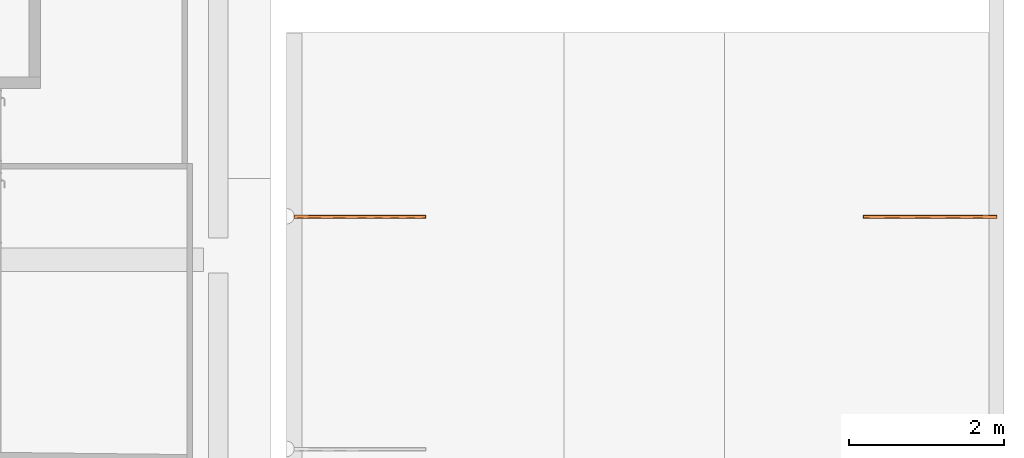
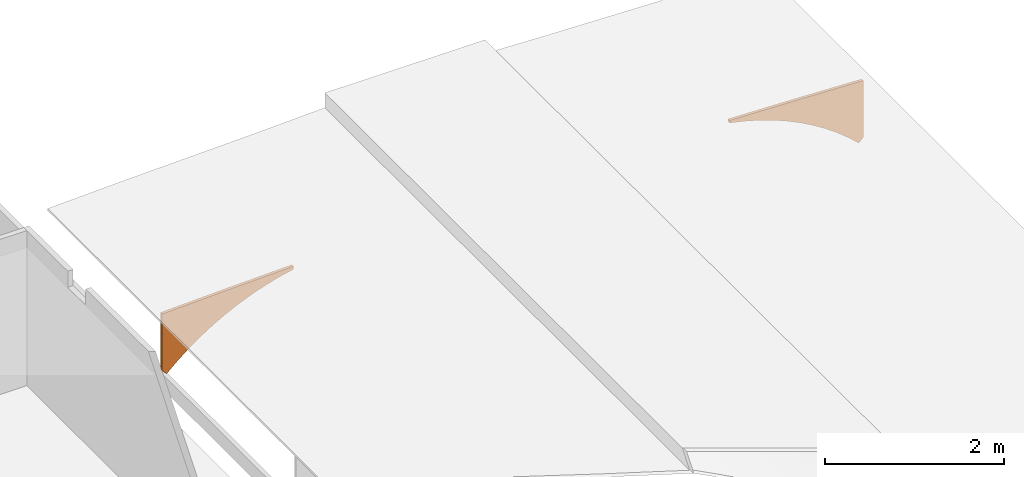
# One storey, part 32 of 32: 1 proxy.
"""IFC4 building model written with IfcOpenShell, lengths in metres."""

from ifc_helpers import new_model, entity, si_unit, converted_unit, derived_unit, direction, frame, origin, place, context, subcontext, project, spatial, polygons, source, transform, mapped, material, type_object, type_shapes, element, save


model = new_model("IFC4")

# Units and contexts
model_context = context("Model", 3, precision=1e-05, world=origin(), true_north=direction((6.12303176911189e-17, 1.0)))
body_context = subcontext(model_context, "Body", "Model", "MODEL_VIEW")
ifc_project = project(units=[si_unit("LENGTHUNIT", "METRE"), si_unit("AREAUNIT", "SQUARE_METRE"), si_unit("VOLUMEUNIT", "CUBIC_METRE"), converted_unit("PLANEANGLEUNIT", "DEGREE", entity("IfcRatioMeasure", 0.0174532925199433), si_unit("PLANEANGLEUNIT", "RADIAN"), dimensions=[0, 0, 0, 0, 0, 0, 0]), si_unit("MASSUNIT", "GRAM", prefix="KILO"), derived_unit("MASSDENSITYUNIT", [(si_unit("MASSUNIT", "GRAM", prefix="KILO"), 1), (si_unit("LENGTHUNIT", "METRE"), -3)]), derived_unit("MOMENTOFINERTIAUNIT", [(si_unit("LENGTHUNIT", "METRE"), 4)]), si_unit("TIMEUNIT", "SECOND"), si_unit("FREQUENCYUNIT", "HERTZ"), si_unit("THERMODYNAMICTEMPERATUREUNIT", "DEGREE_CELSIUS"), derived_unit("THERMALTRANSMITTANCEUNIT", [(si_unit("MASSUNIT", "GRAM", prefix="KILO"), 1), (si_unit("THERMODYNAMICTEMPERATUREUNIT", "KELVIN"), -1), (si_unit("TIMEUNIT", "SECOND"), -3)]), derived_unit("VOLUMETRICFLOWRATEUNIT", [(si_unit("LENGTHUNIT", "METRE"), 3), (si_unit("TIMEUNIT", "SECOND"), -1)]), si_unit("ELECTRICCURRENTUNIT", "AMPERE"), si_unit("ELECTRICVOLTAGEUNIT", "VOLT"), si_unit("POWERUNIT", "WATT"), si_unit("FORCEUNIT", "NEWTON", prefix="KILO"), si_unit("ILLUMINANCEUNIT", "LUX"), si_unit("LUMINOUSFLUXUNIT", "LUMEN"), si_unit("LUMINOUSINTENSITYUNIT", "CANDELA"), derived_unit("USERDEFINED", [(si_unit("MASSUNIT", "GRAM", prefix="KILO"), -1), (si_unit("LENGTHUNIT", "METRE"), -2), (si_unit("TIMEUNIT", "SECOND"), 3), (si_unit("LUMINOUSFLUXUNIT", "LUMEN"), 1)]), derived_unit("LINEARVELOCITYUNIT", [(si_unit("LENGTHUNIT", "METRE"), 1), (si_unit("TIMEUNIT", "SECOND"), -1)]), si_unit("PRESSUREUNIT", "PASCAL"), derived_unit("USERDEFINED", [(si_unit("LENGTHUNIT", "METRE"), -2), (si_unit("MASSUNIT", "GRAM", prefix="KILO"), 1), (si_unit("TIMEUNIT", "SECOND"), -2)]), derived_unit("LINEARFORCEUNIT", [(si_unit("MASSUNIT", "GRAM", prefix="KILO"), 1), (si_unit("LENGTHUNIT", "METRE"), 1), (si_unit("TIMEUNIT", "SECOND"), -2), (si_unit("LENGTHUNIT", "METRE"), -1)]), derived_unit("PLANARFORCEUNIT", [(si_unit("MASSUNIT", "GRAM", prefix="KILO"), 1), (si_unit("LENGTHUNIT", "METRE"), 1), (si_unit("TIMEUNIT", "SECOND"), -2), (si_unit("LENGTHUNIT", "METRE"), -2)])], contexts=[model_context])

# Site, building, storey
site_placement = place(None, origin())
site = spatial("IfcSite", under=ifc_project, at=site_placement, Name="Default", CompositionType="ELEMENT")
building_placement = place(site_placement, origin())
building = spatial("IfcBuilding", under=site, at=building_placement, Name="HOTEL CONSULAIRE BOULOGNE SUR MER", CompositionType="ELEMENT")
storey_placement = place(building_placement, frame((0.0, 0.0, -2.70343668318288)))
storey = spatial("IfcBuildingStorey", under=building, at=storey_placement, Name="SS1", CompositionType="ELEMENT", Elevation=-2.70343668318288)

# Proxy
ifc_material = material(Name="peinture rouge")
building_element_proxy_type = type_object("IfcBuildingElementProxyType", Name="Décoration plafond3:Décoration plafond", PredefinedType="NOTDEFINED", material=ifc_material)
shared_shape = source(origin(), body_context, "Body", "Tessellation", [
    polygons([(0.0606170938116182, 0.00159527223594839, 0.0015952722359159), (0.199839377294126, 0.00159527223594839, 0.127213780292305), (0.345941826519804, 0.00159527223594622, 0.244759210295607), (0.498456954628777, 0.00159527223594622, 0.353855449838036), (0.656896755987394, 0.00159527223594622, 0.454153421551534), (0.820754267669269, 0.00159527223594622, 0.54533220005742), (0.989505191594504, 0.00159527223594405, 0.627100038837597), (1.1626095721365, 0.00159527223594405, 0.69919530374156), (1.3395135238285, 0.00159527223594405, 0.761387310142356), (1.51965100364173, 0.00159527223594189, 0.813477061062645), (1.70244562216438, 0.00159527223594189, 0.855297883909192), (1.70244562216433, 0.00159527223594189, 0.894584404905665), (0.851904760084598, 0.00159527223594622, 0.868818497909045), (0.00159527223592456, 0.00159527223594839, 0.836315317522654), (0.00159527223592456, 0.00159527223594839, 0.0606170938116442), (1.70244562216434, 0.0401348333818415, 0.894584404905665), (0.853216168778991, 0.0401348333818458, 0.868863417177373), (0.00421731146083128, 0.040134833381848, 0.836425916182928), (0.00481577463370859, 0.0338425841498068, 0.836451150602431), (0.00501553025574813, 0.0275250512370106, 0.836459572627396), (0.0041578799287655, 0.0144562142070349, 0.836423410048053), (0.3589450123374, 0.00159527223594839, 0.84997505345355), (0.428716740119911, 0.040134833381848, 0.85264466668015), (0.182892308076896, 0.040134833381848, 0.843252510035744), (0.180270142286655, 0.00159527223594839, 0.843145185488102), (1.27717519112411, 0.00159527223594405, 0.881701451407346), (1.27783089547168, 0.0401348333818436, 0.881723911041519), (1.06552353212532, 0.0401348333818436, 0.875293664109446), (0.605424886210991, 0.00159527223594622, 0.859396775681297), (0.640966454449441, 0.0401348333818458, 0.860754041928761), (1.52372221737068, 0.0401348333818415, 0.889171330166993), (1.48981040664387, 0.00159527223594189, 0.888142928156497), (1.06453997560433, 0.00159527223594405, 0.875259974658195), (0.0606170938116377, 0.040134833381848, 0.0015952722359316), (0.00415677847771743, 0.0144478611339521, 0.0580555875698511), (0.00501553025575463, 0.0275250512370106, 0.0571968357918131), (0.00481577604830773, 0.033842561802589, 0.0573965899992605), (0.00421731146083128, 0.040134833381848, 0.0579950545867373), (0.199839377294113, 0.040134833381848, 0.127213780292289), (0.345941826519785, 0.0401348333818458, 0.244759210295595), (0.498456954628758, 0.0401348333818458, 0.353855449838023), (0.656896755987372, 0.0401348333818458, 0.454153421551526), (0.820754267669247, 0.0401348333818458, 0.545332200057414), (0.989505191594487, 0.0401348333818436, 0.627100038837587), (1.16260957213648, 0.0401348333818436, 0.699195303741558), (1.33951352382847, 0.0401348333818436, 0.761387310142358), (1.5196510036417, 0.0401348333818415, 0.813477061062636), (1.70244562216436, 0.0401348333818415, 0.855297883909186), (0.00421731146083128, 0.040134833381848, 0.487255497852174), (0.00501553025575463, 0.0275250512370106, 0.446828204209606), (0.00501553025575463, 0.0275250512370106, 0.231782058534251), (0.00501553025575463, 0.0275250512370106, 0.641643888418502), (0.00421731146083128, 0.040134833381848, 0.272625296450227), (0.00421731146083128, 0.040134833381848, 0.379940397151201), (0.00421731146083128, 0.0401348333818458, 0.661840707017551), (0.00501553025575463, 0.0275250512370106, 0.339305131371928), (0.00501553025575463, 0.0275250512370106, 0.144489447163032), (0.00421731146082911, 0.040134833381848, 0.165310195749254), (0.00421731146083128, 0.040134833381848, 0.21896774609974), (0.00421731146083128, 0.040134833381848, 0.749133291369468), (0.00501553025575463, 0.0275250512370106, 0.73905173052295), (0.00501553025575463, 0.0275250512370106, 0.690347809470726), (0.00421731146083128, 0.040134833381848, 0.792779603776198), (0.00421731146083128, 0.040134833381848, 0.101641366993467), (0.00501553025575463, 0.0275250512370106, 0.792813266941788), (0.00481584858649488, 0.0338414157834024, 0.770956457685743), (0.00421731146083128, 0.040134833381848, 0.705487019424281), (0.00501553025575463, 0.0275250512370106, 0.100843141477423), (0.00481746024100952, 0.0338158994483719, 0.122666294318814), (0.00479391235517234, 0.0341789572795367, 0.683663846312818), (0.00501553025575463, 0.0275250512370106, 0.188135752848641), (0.00483479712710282, 0.0335345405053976, 0.209958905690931), (0.00501553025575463, 0.0275250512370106, 0.285543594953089), (0.00421731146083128, 0.040134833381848, 0.326282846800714), (0.00421731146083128, 0.040134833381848, 0.574548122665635), (0.00501553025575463, 0.0275250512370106, 0.544236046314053), (0.0047792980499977, 0.0343945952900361, 0.634207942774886), (0.00501553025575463, 0.0275250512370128, 0.592939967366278), (0.00484234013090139, 0.0334079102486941, 0.568588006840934), (0.00481760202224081, 0.0338136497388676, 0.515420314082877), (0.00478881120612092, 0.034255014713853, 0.353111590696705), (0.00501553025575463, 0.0275250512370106, 0.393066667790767), (0.00421731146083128, 0.040134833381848, 0.433597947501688), (0.00480682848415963, 0.033982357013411, 0.303712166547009), (0.00485900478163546, 0.0331179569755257, 0.256991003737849), (0.00479682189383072, 0.0341351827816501, 0.400803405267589), (0.00481199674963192, 0.0339019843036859, 0.466099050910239), (0.00501553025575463, 0.0275250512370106, 0.49553212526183), (0.00475205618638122, 0.03477938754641, 0.727461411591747), (0.0048708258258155, 0.0329027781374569, 0.166186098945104), (0.00421731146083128, 0.0401348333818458, 0.618194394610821), (0.00421731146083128, 0.040134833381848, 0.530901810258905), (0.00159527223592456, 0.00159527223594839, 0.487144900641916), (0.00501553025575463, 0.0275250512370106, 0.661874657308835), (0.00159527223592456, 0.00159527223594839, 0.27388115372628), (0.00501553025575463, 0.0275250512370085, 0.252012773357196), (0.00501553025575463, 0.0275250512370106, 0.349420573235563), (0.00159527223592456, 0.00159527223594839, 0.661730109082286), (0.00159527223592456, 0.00159527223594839, 0.14790969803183), (0.00159527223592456, 0.00159527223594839, 0.380513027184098), (0.00501553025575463, 0.0275250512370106, 0.749167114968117), (0.00415615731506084, 0.0144431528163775, 0.705520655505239), (0.00501553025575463, 0.0275250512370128, 0.554351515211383), (0.00423619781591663, 0.0150647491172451, 0.300716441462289), (0.00403978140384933, 0.0135895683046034, 0.597327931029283), (0.0040201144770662, 0.013450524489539, 0.433828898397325), (0.00159527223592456, 0.00159527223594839, 0.749022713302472), (0.00159527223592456, 0.00159527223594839, 0.574437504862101), (0.00415857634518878, 0.0144614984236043, 0.151540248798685)], [[[5, 6, 7, 8, 9, 10, 11, 12, 32, 26, 33, 13, 29, 22, 25, 14, 107, 98, 108, 93, 100, 95, 99, 15, 1, 2, 3, 4]], [[27, 28, 26]], [[23, 22, 29]], [[20, 24, 19]], [[13, 17, 30]], [[13, 30, 29]], [[25, 24, 20]], [[22, 24, 25]], [[22, 23, 24]], [[25, 20, 21]], [[19, 24, 18]], [[23, 29, 30]], [[32, 27, 26]], [[32, 12, 31]], [[17, 33, 28]], [[21, 14, 25]], [[12, 16, 31]], [[27, 32, 31]], [[33, 17, 13]], [[33, 26, 28]], [[1, 15, 35, 36, 37, 38, 34]], [[2, 1, 34, 39]], [[4, 3, 40, 41]], [[40, 3, 2, 39]], [[5, 4, 41, 42]], [[42, 43, 6, 5]], [[8, 7, 44, 45]], [[10, 9, 46, 47]], [[46, 9, 8, 45]], [[11, 10, 47, 48]], [[6, 43, 44, 7]], [[12, 11, 48, 16]], [[16, 48, 47, 46, 45, 44, 43, 42, 41, 40, 39, 34, 38, 64, 58, 59, 53, 74, 54, 83, 49, 92, 75, 91, 55, 67, 60, 63, 18, 24, 23, 30, 17, 28, 27, 31]], [[92, 79, 91, 75]], [[53, 85, 84]], [[64, 37, 69]], [[79, 78, 77]], [[59, 85, 53]], [[19, 18, 63]], [[64, 38, 37]], [[72, 58, 90]], [[49, 87, 80]], [[66, 19, 63]], [[84, 81, 74]], [[77, 52, 70]], [[81, 56, 97, 82]], [[68, 69, 37]], [[72, 71, 51]], [[57, 90, 69]], [[67, 55, 70]], [[62, 61, 89]], [[66, 63, 60]], [[66, 65, 19]], [[65, 20, 19]], [[37, 36, 68]], [[66, 61, 101, 65]], [[70, 62, 89]], [[57, 69, 68]], [[66, 60, 89]], [[64, 69, 58]], [[67, 89, 60]], [[70, 52, 94, 62]], [[59, 58, 72]], [[71, 90, 57]], [[81, 84, 56]], [[79, 92, 80]], [[51, 85, 72]], [[74, 81, 54]], [[77, 70, 55]], [[79, 76, 103, 78]], [[77, 91, 79]], [[78, 52, 77]], [[80, 76, 79]], [[92, 49, 80]], [[50, 88, 87]], [[88, 80, 87]], [[81, 86, 54]], [[73, 56, 84]], [[86, 81, 82]], [[82, 50, 86]], [[85, 51, 96, 73]], [[84, 74, 53]], [[59, 72, 85]], [[84, 85, 73]], [[86, 83, 54]], [[87, 83, 86]], [[50, 87, 86]], [[87, 49, 83]], [[88, 76, 80]], [[66, 89, 61]], [[70, 89, 67]], [[69, 90, 58]], [[72, 90, 71]], [[77, 55, 91]], [[100, 93, 106]], [[104, 97, 56, 73, 96]], [[100, 104, 95]], [[102, 101, 61, 62, 94]], [[105, 102, 94]], [[104, 106, 97]], [[35, 15, 99]], [[102, 21, 101]], [[35, 109, 57]], [[105, 94, 52, 78, 103]], [[96, 109, 104]], [[98, 102, 105]], [[102, 107, 21]], [[35, 57, 68, 36]], [[99, 109, 35]], [[21, 20, 65, 101]], [[109, 96, 51, 71, 57]], [[106, 105, 103]], [[106, 103, 76, 88, 50, 82, 97]], [[99, 95, 109]], [[108, 98, 105, 93]], [[106, 93, 105]], [[100, 106, 104]], [[14, 21, 107]], [[102, 98, 107]], [[104, 109, 95]]], closed=True),
    polygons([(9.00813593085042, 0.0401348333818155, 0.0194132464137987), (8.86698007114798, 0.0401348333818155, 0.146678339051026), (8.71876285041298, 0.0401348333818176, 0.265644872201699), (8.56397145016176, 0.0401348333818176, 0.37592180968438), (8.40311466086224, 0.0401348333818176, 0.477146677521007), (8.23672120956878, 0.0401348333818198, 0.568986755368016), (8.06533802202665, 0.0401348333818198, 0.651140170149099), (7.88952842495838, 0.0401348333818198, 0.723336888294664), (7.70987029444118, 0.0401348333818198, 0.785339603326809), (7.52695415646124, 0.040134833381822, 0.836944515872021), (7.34138124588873, 0.040134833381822, 0.877982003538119), (7.34138124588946, 0.040134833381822, 0.913055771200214), (8.20302153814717, 0.0401348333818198, 0.887109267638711), (9.06442528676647, 0.0401348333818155, 0.854248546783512), (9.06442528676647, 0.0401348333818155, 0.0757026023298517), (7.34138124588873, 0.0015952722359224, 0.877982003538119), (7.34138124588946, 0.0015952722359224, 0.913055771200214), (9.00813593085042, 0.0015952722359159, 0.019413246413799), (8.86698007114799, 0.0015952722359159, 0.14667833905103), (8.71876285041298, 0.00159527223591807, 0.265644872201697), (8.56397145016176, 0.00159527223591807, 0.375921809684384), (8.40311466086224, 0.00159527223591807, 0.47714667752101), (8.23672120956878, 0.00159527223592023, 0.568986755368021), (8.06533802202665, 0.00159527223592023, 0.651140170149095), (7.88952842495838, 0.00159527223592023, 0.723336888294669), (7.70987029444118, 0.00159527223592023, 0.785339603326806), (7.52695415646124, 0.0015952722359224, 0.836944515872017), (9.063826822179, 0.0338425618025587, 0.0751041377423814), (9.06362706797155, 0.0275250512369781, 0.0749043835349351), (9.06448581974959, 0.0144478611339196, 0.0757631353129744), (9.06704732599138, 0.0015952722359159, 0.0783246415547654), (8.20433295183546, 0.00159527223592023, 0.887064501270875), (9.0670473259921, 0.00159527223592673, 0.854137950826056), (9.06448471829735, 0.0144562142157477, 0.854246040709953), (9.06362706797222, 0.0275250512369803, 0.85428220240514), (9.06382682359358, 0.0338425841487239, 0.854273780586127), (8.70707451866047, 0.0401348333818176, 0.867880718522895), (8.63569013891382, 0.0015952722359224, 0.870601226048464), (8.88837206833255, 0.00159527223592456, 0.860957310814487), (8.88574990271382, 0.0401348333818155, 0.861064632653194), (7.77285709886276, 0.0015952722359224, 0.900060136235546), (7.77220139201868, 0.040134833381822, 0.900082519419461), (7.52010557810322, 0.040134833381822, 0.907673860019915), (8.45504802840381, 0.0401348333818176, 0.877494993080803), (8.42001154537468, 0.0015952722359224, 0.878832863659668), (7.98859502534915, 0.00159527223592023, 0.893562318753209), (7.98761146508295, 0.040134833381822, 0.893595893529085), (7.55711917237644, 0.0015952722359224, 0.90655795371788), (9.06442528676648, 0.0401348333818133, 0.505078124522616), (9.06362706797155, 0.0275250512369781, 0.464593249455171), (9.06362706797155, 0.0275250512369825, 0.659437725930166), (9.06362706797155, 0.0275250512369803, 0.766989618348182), (9.06442528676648, 0.0401348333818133, 0.290390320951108), (9.06442528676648, 0.0401348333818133, 0.67966329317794), (9.06362706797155, 0.0275250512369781, 0.269748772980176), (9.06442528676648, 0.0401348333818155, 0.183046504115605), (9.06362706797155, 0.0275250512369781, 0.172326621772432), (9.06362706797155, 0.0275250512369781, 0.221037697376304), (9.06442528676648, 0.0401348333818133, 0.766955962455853), (9.06442528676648, 0.0401348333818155, 0.119348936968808), (9.06442528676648, 0.0401348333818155, 0.236718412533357), (9.06362706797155, 0.0275250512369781, 0.118550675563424), (9.06362706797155, 0.0275250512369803, 0.810635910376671), (9.06382689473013, 0.0338437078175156, 0.788812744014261), (9.06362706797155, 0.0275250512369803, 0.713213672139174), (9.06442528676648, 0.0401348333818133, 0.397734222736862), (9.06362706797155, 0.0275250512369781, 0.367171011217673), (9.06362706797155, 0.0275250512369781, 0.415882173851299), (9.06442528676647, 0.0401348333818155, 0.451406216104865), (9.06384752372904, 0.0341615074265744, 0.736277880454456), (9.06380723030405, 0.0335250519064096, 0.19668216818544), (9.06380437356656, 0.033477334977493, 0.440237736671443), (9.06362706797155, 0.0275250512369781, 0.562015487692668), (9.06380720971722, 0.033524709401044, 0.489870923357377), (9.06442528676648, 0.0401348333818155, 0.592370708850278), (9.06442528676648, 0.0401348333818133, 0.548724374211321), (9.06384722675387, 0.0341570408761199, 0.570547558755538), (9.06362706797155, 0.0275250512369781, 0.610726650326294), (9.06442528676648, 0.0401348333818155, 0.636017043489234), (9.06385088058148, 0.034211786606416, 0.657840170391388), (9.06380208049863, 0.0334387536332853, 0.245393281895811), (9.06380038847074, 0.0334101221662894, 0.391526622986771), (9.06442528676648, 0.0401348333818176, 0.34406222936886), (9.06362706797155, 0.0275250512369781, 0.318459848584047), (9.0638002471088, 0.0334077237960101, 0.293579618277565), (9.06379993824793, 0.0334024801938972, 0.343403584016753), (9.06362706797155, 0.0275250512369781, 0.513304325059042), (9.06389285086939, 0.0348110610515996, 0.614173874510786), (9.06442528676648, 0.0401348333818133, 0.810602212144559), (9.06442528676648, 0.0401348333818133, 0.723309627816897), (9.06382673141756, 0.033841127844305, 0.120102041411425), (9.06704732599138, 0.0015952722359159, 0.504967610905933), (9.06362706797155, 0.0275250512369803, 0.249489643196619), (9.06704732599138, 0.0015952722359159, 0.29164612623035), (9.06362706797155, 0.0275250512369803, 0.679697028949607), (9.06704732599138, 0.00159527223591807, 0.679552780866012), (9.06704732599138, 0.0015952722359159, 0.165617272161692), (9.06448644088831, 0.0144431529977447, 0.723343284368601), (9.06362706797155, 0.0275250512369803, 0.572145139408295), (9.06362706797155, 0.0275250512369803, 0.162197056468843), (9.06447175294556, 0.0145549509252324, 0.205843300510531), (9.06460275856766, 0.0135899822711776, 0.615144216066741), (9.06362706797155, 0.0275250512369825, 0.357041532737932), (9.06704732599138, 0.0015952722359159, 0.398306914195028), (9.06462262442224, 0.0134495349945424, 0.451637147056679), (9.06459018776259, 0.0136796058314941, 0.35272373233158), (9.06704732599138, 0.0015952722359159, 0.766845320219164), (9.06704732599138, 0.00159527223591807, 0.59226024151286)], [[[8, 9, 10, 11, 12, 43, 42, 47, 13, 44, 37, 40, 14, 89, 59, 90, 54, 79, 75, 76, 49, 69, 66, 83, 53, 61, 56, 60, 15, 1, 2, 3, 4, 5, 6, 7]], [[16, 17, 12, 11]], [[11, 10, 27, 16]], [[8, 7, 24, 25]], [[9, 8, 25, 26]], [[10, 9, 26, 27]], [[6, 23, 24, 7]], [[5, 4, 21, 22]], [[2, 1, 18, 19]], [[3, 2, 19, 20]], [[4, 3, 20, 21]], [[6, 5, 22, 23]], [[31, 18, 1, 15, 28, 29, 30]], [[34, 35, 39]], [[45, 38, 44]], [[35, 36, 40]], [[40, 39, 35]], [[39, 33, 34]], [[13, 45, 44]], [[41, 42, 48]], [[12, 17, 43]], [[36, 14, 40]], [[48, 42, 43]], [[46, 13, 47]], [[13, 32, 45]], [[41, 47, 42]], [[37, 39, 40]], [[38, 37, 44]], [[39, 37, 38]], [[47, 41, 46]], [[46, 32, 13]], [[43, 17, 48]], [[18, 31, 97, 94, 104, 92, 108, 96, 107, 33, 39, 38, 45, 32, 46, 41, 48, 17, 16, 27, 26, 25, 24, 23, 22, 21, 20, 19]], [[50, 72, 74]], [[81, 61, 53]], [[52, 65, 70]], [[76, 75, 77]], [[81, 55, 93, 58]], [[85, 81, 53]], [[64, 36, 63]], [[63, 52, 64]], [[52, 70, 64]], [[74, 72, 69]], [[62, 29, 28]], [[36, 35, 63]], [[28, 15, 60]], [[14, 36, 89]], [[28, 91, 62]], [[58, 57, 71]], [[57, 91, 71]], [[59, 64, 70]], [[64, 89, 36]], [[56, 61, 71]], [[60, 91, 28]], [[91, 57, 100, 62]], [[80, 70, 65]], [[72, 50, 68]], [[86, 83, 82]], [[68, 67, 82]], [[90, 59, 70, 54]], [[82, 66, 72]], [[54, 70, 80]], [[81, 58, 71]], [[60, 56, 91]], [[69, 49, 76, 74]], [[69, 72, 66]], [[73, 87, 77, 78, 99]], [[76, 77, 74]], [[79, 54, 80]], [[80, 65, 95, 51, 78]], [[74, 77, 87]], [[79, 88, 75]], [[88, 80, 78]], [[77, 75, 88]], [[53, 83, 85]], [[61, 81, 71]], [[68, 82, 72]], [[83, 66, 82]], [[55, 81, 85]], [[82, 67, 86]], [[85, 84, 55]], [[86, 84, 85]], [[83, 86, 85]], [[86, 67, 103, 84]], [[87, 50, 74]], [[77, 88, 78]], [[80, 88, 79]], [[64, 59, 89]], [[71, 91, 56]], [[101, 100, 57, 58, 93]], [[106, 94, 101]], [[92, 105, 102]], [[102, 99, 78, 51, 95]], [[97, 30, 101]], [[98, 34, 107]], [[100, 101, 30]], [[34, 33, 107]], [[96, 102, 98]], [[105, 106, 103]], [[97, 31, 30]], [[98, 95, 65, 52]], [[34, 52, 63, 35]], [[98, 52, 34]], [[99, 102, 105]], [[95, 98, 102]], [[30, 29, 62, 100]], [[97, 101, 94]], [[105, 103, 67, 68, 50, 87, 73, 99]], [[108, 92, 102, 96]], [[105, 104, 106]], [[93, 106, 101]], [[104, 105, 92]], [[106, 93, 55, 84, 103]], [[106, 104, 94]], [[107, 96, 98]]], closed=True),
])
type_shapes(building_element_proxy_type, [shared_shape])
proxy_placement = place(storey_placement, frame((12.4613240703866, -15.162434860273, 0.357702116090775)))
element("IfcBuildingElementProxy", 1, at=proxy_placement, inside=storey, type_object=building_element_proxy_type, material=ifc_material, Name="Décoration plafond3:Décoration plafond", ObjectType="Décoration plafond3:Décoration plafond", PredefinedType="NOTDEFINED", context=body_context, shape_type="MappedRepresentation", body=[
    mapped(shared_shape, transform((0.0, 0.0, 0.0), scale=1.0)),
])

save(model, "model.ifc")
